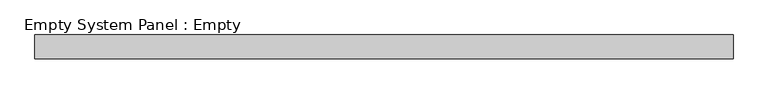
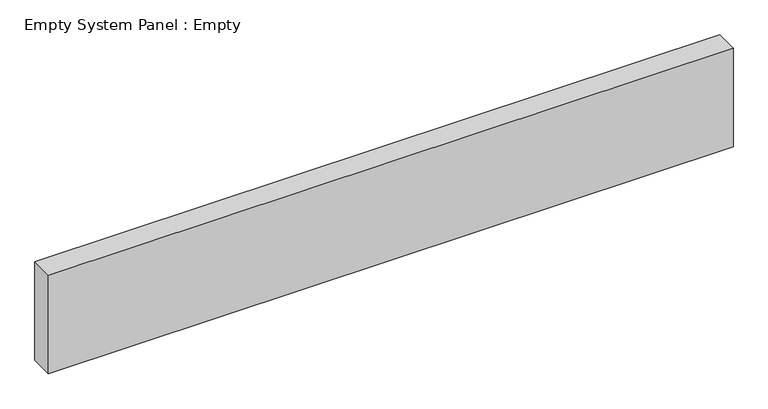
"""IFC4 building model written with IfcOpenShell, lengths in millimetres: plate geometry, Empty System Panel : Empty."""

from ifc_helpers import new_model, si_unit, origin, origin_with_axes, place, context, project, spatial, polyline, outline, extrude, source, transform, mapped, element, save


def empty_system_panel_empty_c037ad02(model_context):
    return source(origin(), model_context, "Body", "SweptSolid", [
        extrude(outline(polyline([(1462.5, -50.0), (-1462.5, -50.0), (-1462.5, 50.0), (1462.5, 50.0), (1462.5, -50.0)])), origin_with_axes(), (0.0, 0.0, 1.0), 445.0),
    ])


if __name__ == "__main__":
    model = new_model("IFC4")
    model_context = context("Model", 3, world=origin())
    ifc_project = project(units=[si_unit("LENGTHUNIT", "METRE", prefix="MILLI")], contexts=[model_context])
    site = spatial("IfcSite", under=ifc_project)
    building = spatial("IfcBuilding", under=site)
    placement = place(None, origin())
    empty_system_panel_empty_shape = empty_system_panel_empty_c037ad02(model_context)
    element("IfcPlate", 1, ObjectType="Empty System Panel : Empty", at=placement, inside=building, context=model_context, shape_type="MappedRepresentation", body=[
        mapped(empty_system_panel_empty_shape, transform((0.0, 0.0, 0.0), x_axis=(1.0, 0.0, 0.0), y_axis=(0.0, 1.0, 0.0), z_axis=(0.0, 0.0, 1.0))),
    ])
    save(model, "model.ifc")
